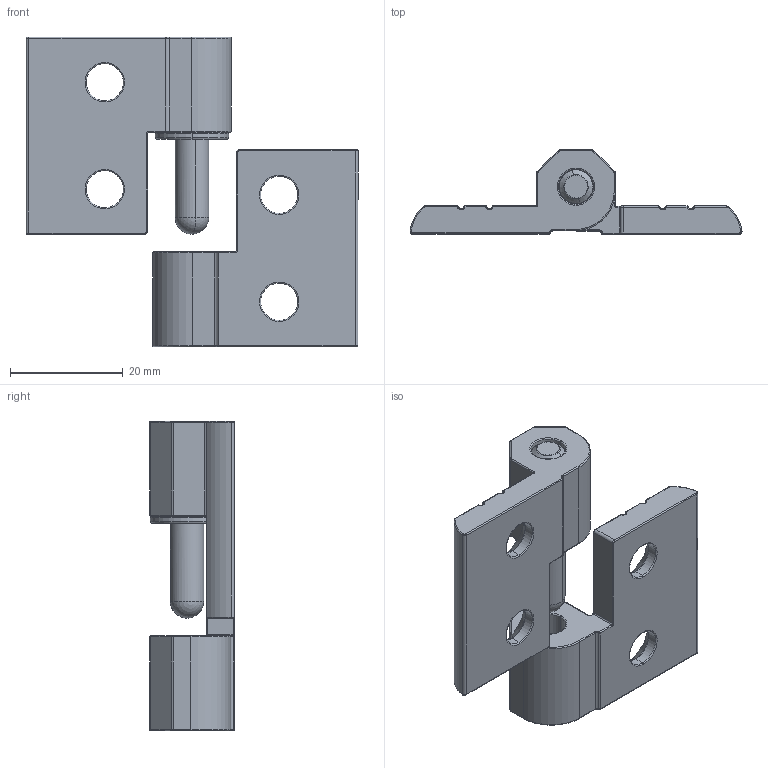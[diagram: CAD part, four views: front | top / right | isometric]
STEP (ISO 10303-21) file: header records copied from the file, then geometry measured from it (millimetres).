
FILE_DESCRIPTION (( 'STEP AP214' ), '1' );
FILE_NAME ('HGA-5935-3119-L.STEP', '2020-03-23T07:12:18', ( '' ), ( '' ), 'SwSTEP 2.0', 'SolidWorks 2016', '' );
FILE_SCHEMA (( 'AUTOMOTIVE_DESIGN' ));
Length unit declared in the file: millimetre
Products named in the file (4): 脣誏; HGA-5935-3119-L; 墊片; 縡?ﾆｬ
Assembly tree (4 placements, depth 2):
  HGA-5935-3119-L
    縡?ﾆｬ  x2
    脣誏
    墊片
Bounding box: 59 x 15 x 55 mm (x, y, z)
Volume: 12261.1 mm3; surface area: 7734.7 mm2
Topology: 4 solids, 4 shells, 600 faces, 1465 edges, 815 vertices
Faces by surface type: cylinder 291, torus 114, plane 95, sphere 58, bspline 32, cone 10
Entity records: 13389 total; most frequent: CARTESIAN_POINT 3345, DIRECTION 2311, ORIENTED_EDGE 2018, AXIS2_PLACEMENT_3D 1021, EDGE_CURVE 1009, CIRCLE 614, VERTEX_POINT 597, EDGE_LOOP 422
